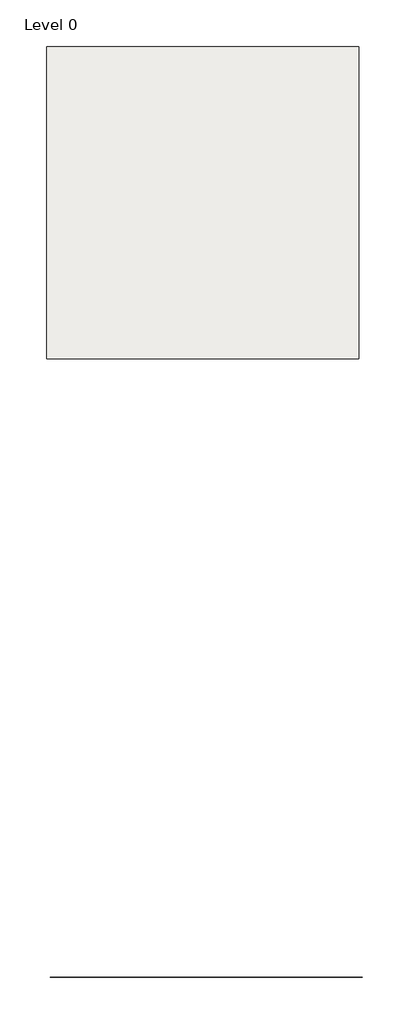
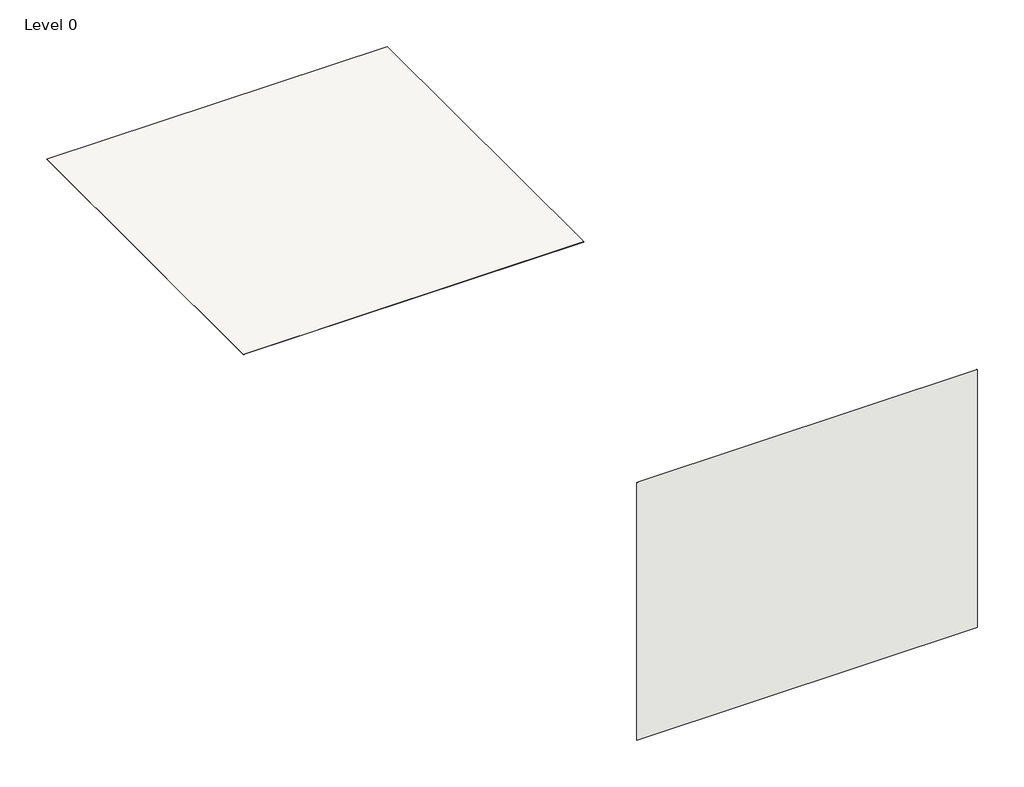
# One storey: 2 coverings.
"""IFC4 building model written with IfcOpenShell, lengths in millimetres."""

from ifc_helpers import new_model, si_unit, frame, origin, origin_with_axes, place, context, project, spatial, polyline, outline, extrude, element, save

model = new_model("IFC4")

# Units and contexts
model_context = context("Model", 3, world=origin())
ifc_project = project(units=[si_unit("LENGTHUNIT", "METRE", prefix="MILLI")], contexts=[model_context])

# Site, building, storey
site = spatial("IfcSite", under=ifc_project)
building = spatial("IfcBuilding", under=site)
storey = spatial("IfcBuildingStorey", under=building, Name="Level 0", Elevation=0.0)

# Coverings
placement = place(None, origin())
element("IfcCovering", 1, ObjectType="NBS_DeltaMembraneSystemsLtd_LimePlasters_KosterRestorationPlasterGrey", at=placement, inside=storey, context=model_context, shape_type="SweptSolid", body=[
    extrude(outline(polyline([(1524.0, -5224.0), (1524.0, -2724.0), (4024.0, -2724.0), (4024.0, -5224.0), (1524.0, -5224.0)])), frame((0.0, 0.0, -0.8), z_axis=(0.0, 0.0, 1.0), x_axis=(1.0, 0.0, 0.0)), (0.0, 0.0, 1.0), 0.8),
])
element("IfcCovering", 2, ObjectType="NBS_DeltaMembraneSystemsLtd_LimePlasters_KosterRestorationPlasterGrey", at=placement, inside=storey, context=model_context, shape_type="SweptSolid", body=[
    extrude(outline(polyline([(1552.2232843, -10175.4905557), (4052.2232843, -10175.4905557), (4052.2232843, -10176.2905557), (1552.2232843, -10176.2905557), (1552.2232843, -10175.4905557)])), origin_with_axes(), (0.0, 0.0, 1.0), 2000.0),
])

save(model, "model.ifc")
